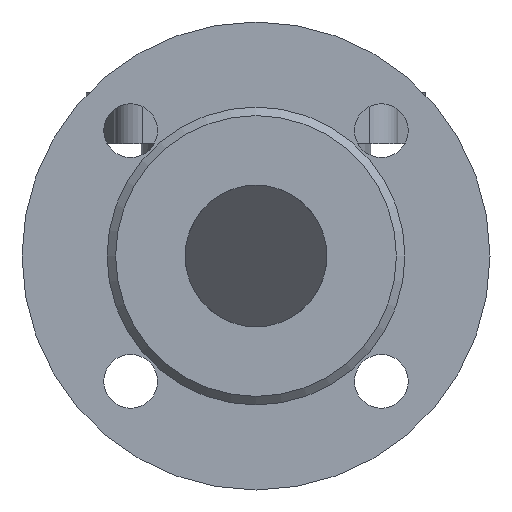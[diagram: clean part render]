
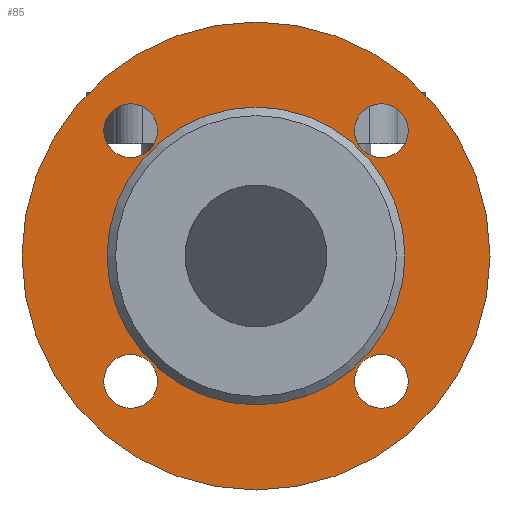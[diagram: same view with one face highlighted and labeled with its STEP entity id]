
A CAD part, front view. The second image highlights one B-rep face of the part: STEP entity #85.
In plain terms, the highlighted planar face has unit normal (0, -1, 0).
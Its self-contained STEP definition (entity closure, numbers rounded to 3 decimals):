
#85=ADVANCED_FACE('',(#633,#635,#637,#639,#641,#643),#645,.T.);
#633=FACE_BOUND('',#634,.T.);
#634=EDGE_LOOP('',(#2072));
#635=FACE_BOUND('',#636,.T.);
#636=EDGE_LOOP('',(#2073));
#637=FACE_BOUND('',#638,.T.);
#638=EDGE_LOOP('',(#2074));
#639=FACE_BOUND('',#640,.T.);
#640=EDGE_LOOP('',(#2075));
#641=FACE_BOUND('',#642,.T.);
#642=EDGE_LOOP('',(#2076));
#643=FACE_BOUND('',#644,.T.);
#644=EDGE_LOOP('',(#2077));
#645=PLANE('',#646);
#646=AXIS2_PLACEMENT_3D('',#647,#648,#649);
#647=CARTESIAN_POINT('',(0.,-98.5,0.));
#648=DIRECTION('',(0.,-1.,0.));
#649=DIRECTION('',(0.,0.,1.));
#2072=ORIENTED_EDGE('',*,*,#2332,.F.);
#2073=ORIENTED_EDGE('',*,*,#2333,.T.);
#2074=ORIENTED_EDGE('',*,*,#2334,.T.);
#2075=ORIENTED_EDGE('',*,*,#2335,.T.);
#2076=ORIENTED_EDGE('',*,*,#2331,.T.);
#2077=ORIENTED_EDGE('',*,*,#2336,.T.);
#2331=EDGE_CURVE('',#2461,#2461,#2462,.T.);
#2332=EDGE_CURVE('',#2463,#2463,#2464,.T.);
#2333=EDGE_CURVE('',#2465,#2465,#2466,.F.);
#2334=EDGE_CURVE('',#2467,#2467,#2468,.F.);
#2335=EDGE_CURVE('',#2469,#2469,#2470,.F.);
#2336=EDGE_CURVE('',#2471,#2471,#2472,.F.);
#2461=VERTEX_POINT('',#2687);
#2462=CIRCLE('',#2688,52.5);
#2463=VERTEX_POINT('',#2692);
#2464=CIRCLE('',#2693,82.5);
#2465=VERTEX_POINT('',#2697);
#2466=CIRCLE('',#2698,9.5);
#2467=VERTEX_POINT('',#2702);
#2468=CIRCLE('',#2703,9.5);
#2469=VERTEX_POINT('',#2707);
#2470=CIRCLE('',#2708,9.5);
#2471=VERTEX_POINT('',#2712);
#2472=CIRCLE('',#2713,9.5);
#2687=CARTESIAN_POINT('',(0.,-98.5,52.5));
#2688=AXIS2_PLACEMENT_3D('',#2689,#2690,#2691);
#2689=CARTESIAN_POINT('',(0.,-98.5,0.));
#2690=DIRECTION('',(0.,1.,0.));
#2691=DIRECTION('',(0.,0.,1.));
#2692=CARTESIAN_POINT('',(0.,-98.5,82.5));
#2693=AXIS2_PLACEMENT_3D('',#2694,#2695,#2696);
#2694=CARTESIAN_POINT('',(0.,-98.5,0.));
#2695=DIRECTION('',(0.,1.,0.));
#2696=DIRECTION('',(0.,0.,1.));
#2697=CARTESIAN_POINT('',(44.194,-98.5,34.694));
#2698=AXIS2_PLACEMENT_3D('',#2699,#2700,#2701);
#2699=CARTESIAN_POINT('',(44.194,-98.5,44.194));
#2700=DIRECTION('',(0.,-1.,0.));
#2701=DIRECTION('',(0.,0.,-1.));
#2702=CARTESIAN_POINT('',(34.694,-98.5,-44.194));
#2703=AXIS2_PLACEMENT_3D('',#2704,#2705,#2706);
#2704=CARTESIAN_POINT('',(44.194,-98.5,-44.194));
#2705=DIRECTION('',(0.,-1.,0.));
#2706=DIRECTION('',(-1.,0.,0.));
#2707=CARTESIAN_POINT('',(-44.194,-98.5,-34.694));
#2708=AXIS2_PLACEMENT_3D('',#2709,#2710,#2711);
#2709=CARTESIAN_POINT('',(-44.194,-98.5,-44.194));
#2710=DIRECTION('',(0.,-1.,0.));
#2711=DIRECTION('',(0.,0.,1.));
#2712=CARTESIAN_POINT('',(-34.694,-98.5,44.194));
#2713=AXIS2_PLACEMENT_3D('',#2714,#2715,#2716);
#2714=CARTESIAN_POINT('',(-44.194,-98.5,44.194));
#2715=DIRECTION('',(0.,-1.,0.));
#2716=DIRECTION('',(1.,0.,0.));
